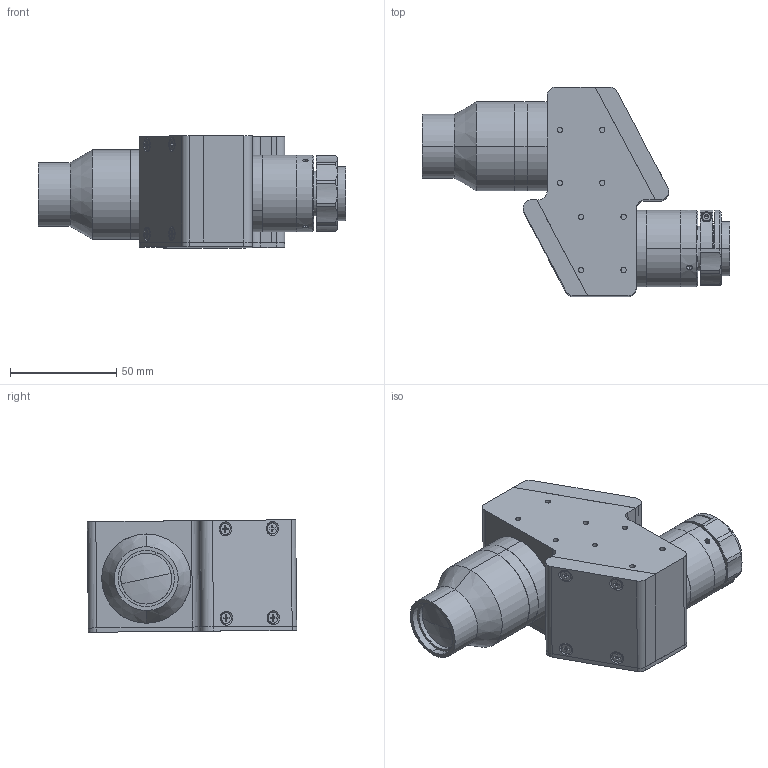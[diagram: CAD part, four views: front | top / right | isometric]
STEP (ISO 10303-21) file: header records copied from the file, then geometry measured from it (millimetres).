
FILE_DESCRIPTION (( 'STEP AP203' ), '1' );
FILE_NAME ('XF-MH085X205.STEP', '2020-08-24T07:13:25', ( 'canrill-02' ), ( '' ), 'SwSTEP 2.0', 'SolidWorks 2014', '' );
FILE_SCHEMA (( 'CONFIG_CONTROL_DESIGN' ));
Length unit declared in the file: millimetre
Products named in the file (1): XF-MH085X205
Bounding box: 144.76 x 98.5 x 52.95 mm (x, y, z)
Surface area: 42904.6 mm2 (no closed solid volume)
Topology: 0 solids, 30 shells, 424 faces, 1337 edges, 909 vertices
Faces by surface type: plane 219, cylinder 158, cone 43, sphere 2, torus 2
Entity records: 15105 total; most frequent: CARTESIAN_POINT 2990, DIRECTION 2626, ORIENTED_EDGE 2233, EDGE_CURVE 1335, VERTEX_POINT 909, AXIS2_PLACEMENT_3D 889, VECTOR 848, LINE 848
